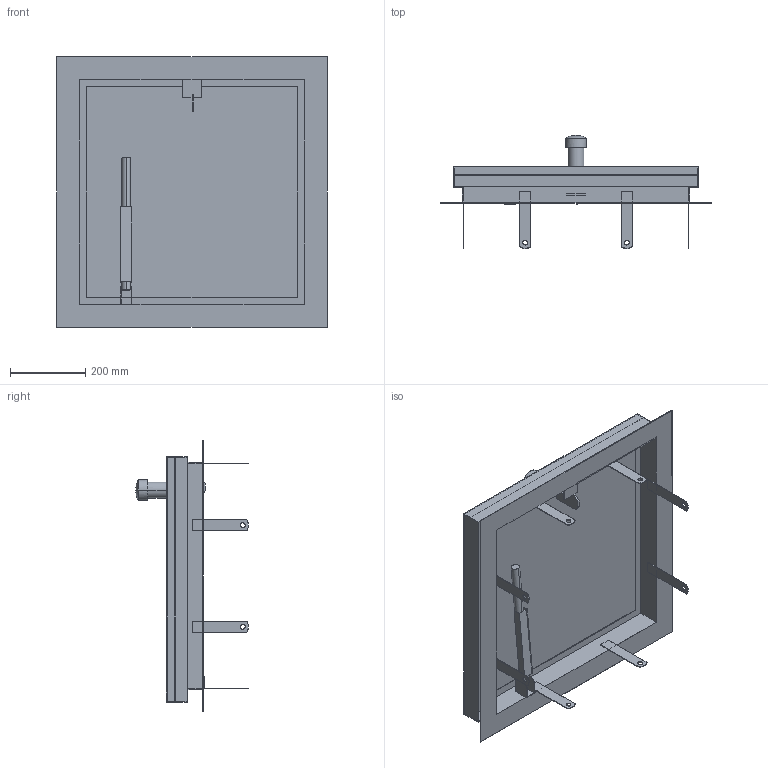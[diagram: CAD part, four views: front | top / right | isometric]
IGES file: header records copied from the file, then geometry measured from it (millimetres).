
Start section:  PTC IGES file: 52335826.igs
Global section: file name: 52335826.igs; native system: Creo Parametric by PTC Inc.; preprocessor: 2022162; author: wep; organization: Unknown; date: 20241219.071710; units: millimetre
Bounding box: 720 x 300 x 720 mm (x, y, z)
Surface area: 2814168.5 mm2 (no closed solid volume)
Topology: 0 solids, 0 shells, 734 faces, 3990 edges, 3988 vertices
Faces by surface type: bspline 422, extrusion 275, revolution 37
